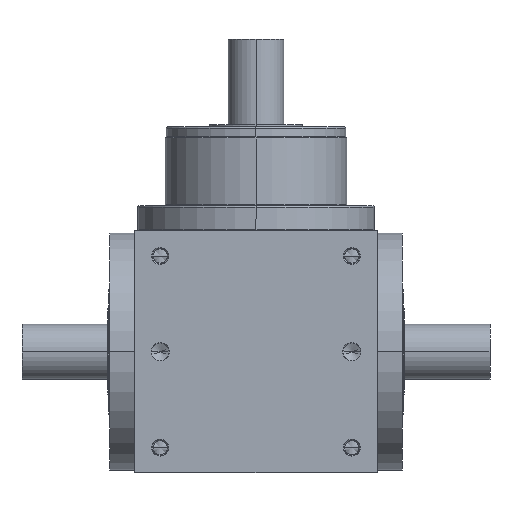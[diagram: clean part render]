
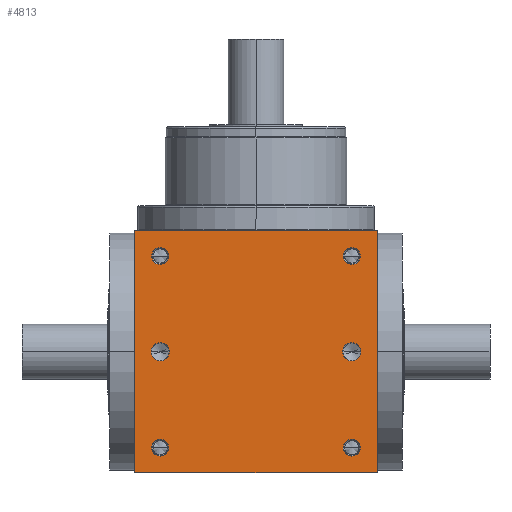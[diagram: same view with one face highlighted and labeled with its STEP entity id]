
A CAD part, front view. The second image highlights one B-rep face of the part: STEP entity #4813.
In plain terms, the highlighted planar face has unit normal (0, -1, 0).
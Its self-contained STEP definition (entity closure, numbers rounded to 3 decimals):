
#5=DIRECTION('',(1.,0.,0.));
#6=VECTOR('',#5,240.);
#7=CARTESIAN_POINT('',(-120.,-120.,-120.));
#8=LINE('',#7,#6);
#155=DIRECTION('',(0.,0.,1.));
#156=VECTOR('',#155,240.);
#157=CARTESIAN_POINT('',(120.,-120.,-120.));
#158=LINE('',#157,#156);
#209=DIRECTION('',(0.,0.,1.));
#210=VECTOR('',#209,240.);
#211=CARTESIAN_POINT('',(-120.,-120.,-120.));
#212=LINE('',#211,#210);
#213=CARTESIAN_POINT('',(95.,-120.,95.));
#214=DIRECTION('',(0.,1.,0.));
#215=DIRECTION('',(-1.,0.,0.));
#216=AXIS2_PLACEMENT_3D('',#213,#214,#215);
#218=CARTESIAN_POINT('',(95.,-120.,95.));
#219=DIRECTION('',(0.,1.,0.));
#220=DIRECTION('',(1.,0.,0.));
#221=AXIS2_PLACEMENT_3D('',#218,#219,#220);
#223=CARTESIAN_POINT('',(-95.,-120.,95.));
#224=DIRECTION('',(0.,1.,0.));
#225=DIRECTION('',(-1.,0.,0.));
#226=AXIS2_PLACEMENT_3D('',#223,#224,#225);
#228=CARTESIAN_POINT('',(-95.,-120.,95.));
#229=DIRECTION('',(0.,1.,0.));
#230=DIRECTION('',(1.,0.,0.));
#231=AXIS2_PLACEMENT_3D('',#228,#229,#230);
#233=CARTESIAN_POINT('',(95.,-120.,-95.));
#234=DIRECTION('',(0.,1.,0.));
#235=DIRECTION('',(-1.,0.,0.));
#236=AXIS2_PLACEMENT_3D('',#233,#234,#235);
#238=CARTESIAN_POINT('',(95.,-120.,-95.));
#239=DIRECTION('',(0.,1.,0.));
#240=DIRECTION('',(1.,0.,0.));
#241=AXIS2_PLACEMENT_3D('',#238,#239,#240);
#243=CARTESIAN_POINT('',(-95.,-120.,-95.));
#244=DIRECTION('',(0.,1.,0.));
#245=DIRECTION('',(-1.,0.,0.));
#246=AXIS2_PLACEMENT_3D('',#243,#244,#245);
#248=CARTESIAN_POINT('',(-95.,-120.,-95.));
#249=DIRECTION('',(0.,1.,0.));
#250=DIRECTION('',(1.,0.,0.));
#251=AXIS2_PLACEMENT_3D('',#248,#249,#250);
#253=CARTESIAN_POINT('',(-95.,-120.,0.));
#254=DIRECTION('',(0.,1.,0.));
#255=DIRECTION('',(1.,0.,0.));
#256=AXIS2_PLACEMENT_3D('',#253,#254,#255);
#258=CARTESIAN_POINT('',(-95.,-120.,0.));
#259=DIRECTION('',(0.,1.,0.));
#260=DIRECTION('',(-1.,0.,0.));
#261=AXIS2_PLACEMENT_3D('',#258,#259,#260);
#263=CARTESIAN_POINT('',(95.,-120.,0.));
#264=DIRECTION('',(0.,1.,0.));
#265=DIRECTION('',(1.,0.,0.));
#266=AXIS2_PLACEMENT_3D('',#263,#264,#265);
#268=CARTESIAN_POINT('',(95.,-120.,0.));
#269=DIRECTION('',(0.,1.,0.));
#270=DIRECTION('',(-1.,0.,0.));
#271=AXIS2_PLACEMENT_3D('',#268,#269,#270);
#285=DIRECTION('',(1.,0.,0.));
#286=VECTOR('',#285,240.);
#287=CARTESIAN_POINT('',(-120.,-120.,120.));
#288=LINE('',#287,#286);
#3849=CARTESIAN_POINT('',(-120.,-120.,-120.));
#3851=VERTEX_POINT('',#3849);
#3852=CARTESIAN_POINT('',(120.,-120.,-120.));
#3853=VERTEX_POINT('',#3852);
#3857=CARTESIAN_POINT('',(-120.,-120.,120.));
#3859=VERTEX_POINT('',#3857);
#3860=CARTESIAN_POINT('',(120.,-120.,120.));
#3861=VERTEX_POINT('',#3860);
#4040=CARTESIAN_POINT('',(86.6,-120.,95.));
#4041=CARTESIAN_POINT('',(103.4,-120.,95.));
#4042=VERTEX_POINT('',#4040);
#4043=VERTEX_POINT('',#4041);
#4048=CARTESIAN_POINT('',(-103.4,-120.,95.));
#4049=CARTESIAN_POINT('',(-86.6,-120.,95.));
#4050=VERTEX_POINT('',#4048);
#4051=VERTEX_POINT('',#4049);
#4056=CARTESIAN_POINT('',(86.6,-120.,-95.));
#4057=CARTESIAN_POINT('',(103.4,-120.,-95.));
#4058=VERTEX_POINT('',#4056);
#4059=VERTEX_POINT('',#4057);
#4064=CARTESIAN_POINT('',(-103.4,-120.,-95.));
#4065=CARTESIAN_POINT('',(-86.6,-120.,-95.));
#4066=VERTEX_POINT('',#4064);
#4067=VERTEX_POINT('',#4065);
#4424=CARTESIAN_POINT('',(-85.95,-120.,
0.));
#4425=CARTESIAN_POINT('',(-104.05,-120.,0.));
#4426=VERTEX_POINT('',#4424);
#4427=VERTEX_POINT('',#4425);
#4432=CARTESIAN_POINT('',(104.05,-120.,0.));
#4433=CARTESIAN_POINT('',(85.95,-120.,0.));
#4434=VERTEX_POINT('',#4432);
#4435=VERTEX_POINT('',#4433);
#4765=CARTESIAN_POINT('',(-120.,-120.,-120.));
#4766=DIRECTION('',(0.,-1.,0.));
#4767=DIRECTION('',(1.,0.,0.));
#4768=AXIS2_PLACEMENT_3D('',#4765,#4766,#4767);
#4769=PLANE('',#4768);
#4770=ORIENTED_EDGE('',*,*,#4605,.F.);
#4771=ORIENTED_EDGE('',*,*,#4648,.T.);
#4773=ORIENTED_EDGE('',*,*,#4772,.T.);
#4774=ORIENTED_EDGE('',*,*,#4727,.F.);
#4775=EDGE_LOOP('',(#4770,#4771,#4773,#4774));
#4776=FACE_OUTER_BOUND('',#4775,.F.);
#4778=ORIENTED_EDGE('',*,*,#4777,.F.);
#4780=ORIENTED_EDGE('',*,*,#4779,.F.);
#4781=EDGE_LOOP('',(#4778,#4780));
#4782=FACE_BOUND('',#4781,.F.);
#4784=ORIENTED_EDGE('',*,*,#4783,.F.);
#4786=ORIENTED_EDGE('',*,*,#4785,.F.);
#4787=EDGE_LOOP('',(#4784,#4786));
#4788=FACE_BOUND('',#4787,.F.);
#4790=ORIENTED_EDGE('',*,*,#4789,.F.);
#4792=ORIENTED_EDGE('',*,*,#4791,.F.);
#4793=EDGE_LOOP('',(#4790,#4792));
#4794=FACE_BOUND('',#4793,.F.);
#4796=ORIENTED_EDGE('',*,*,#4795,.F.);
#4798=ORIENTED_EDGE('',*,*,#4797,.F.);
#4799=EDGE_LOOP('',(#4796,#4798));
#4800=FACE_BOUND('',#4799,.F.);
#4802=ORIENTED_EDGE('',*,*,#4801,.F.);
#4804=ORIENTED_EDGE('',*,*,#4803,.F.);
#4805=EDGE_LOOP('',(#4802,#4804));
#4806=FACE_BOUND('',#4805,.F.);
#4808=ORIENTED_EDGE('',*,*,#4807,.F.);
#4810=ORIENTED_EDGE('',*,*,#4809,.F.);
#4811=EDGE_LOOP('',(#4808,#4810));
#4812=FACE_BOUND('',#4811,.F.);
#4813=ADVANCED_FACE('',(#4776,#4782,#4788,#4794,#4800,#4806,#4812),#4769,.T.);
#217=CIRCLE('',#216,8.4);
#222=CIRCLE('',#221,8.4);
#227=CIRCLE('',#226,8.4);
#232=CIRCLE('',#231,8.4);
#237=CIRCLE('',#236,8.4);
#242=CIRCLE('',#241,8.4);
#247=CIRCLE('',#246,8.4);
#252=CIRCLE('',#251,8.4);
#257=CIRCLE('',#256,9.05);
#262=CIRCLE('',#261,9.05);
#267=CIRCLE('',#266,9.05);
#272=CIRCLE('',#271,9.05);
#4605=EDGE_CURVE('',#3851,#3853,#8,.T.);
#4648=EDGE_CURVE('',#3851,#3859,#212,.T.);
#4727=EDGE_CURVE('',#3853,#3861,#158,.T.);
#4772=EDGE_CURVE('',#3859,#3861,#288,.T.);
#4777=EDGE_CURVE('',#4042,#4043,#217,.T.);
#4779=EDGE_CURVE('',#4043,#4042,#222,.T.);
#4783=EDGE_CURVE('',#4050,#4051,#227,.T.);
#4785=EDGE_CURVE('',#4051,#4050,#232,.T.);
#4789=EDGE_CURVE('',#4058,#4059,#237,.T.);
#4791=EDGE_CURVE('',#4059,#4058,#242,.T.);
#4795=EDGE_CURVE('',#4066,#4067,#247,.T.);
#4797=EDGE_CURVE('',#4067,#4066,#252,.T.);
#4801=EDGE_CURVE('',#4426,#4427,#257,.T.);
#4803=EDGE_CURVE('',#4427,#4426,#262,.T.);
#4807=EDGE_CURVE('',#4434,#4435,#267,.T.);
#4809=EDGE_CURVE('',#4435,#4434,#272,.T.);
